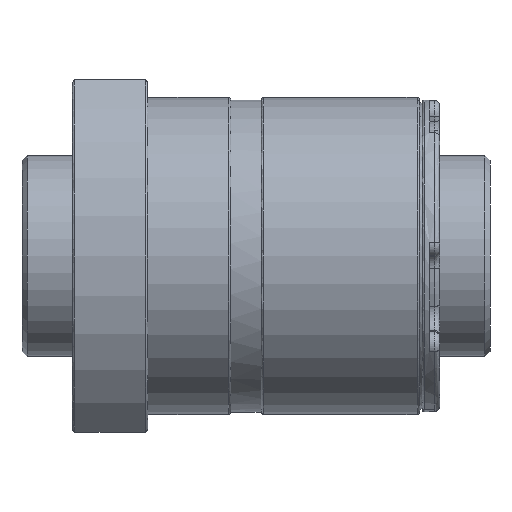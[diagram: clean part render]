
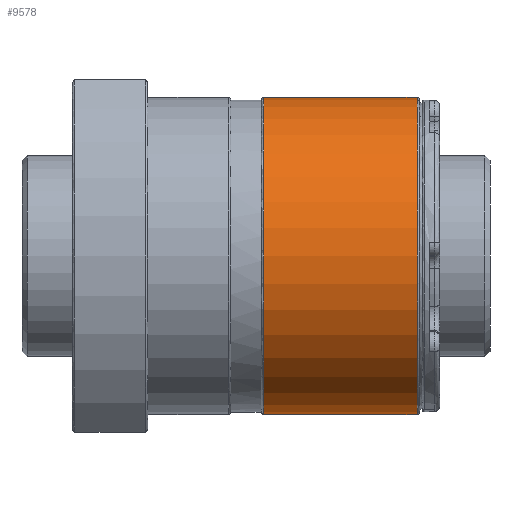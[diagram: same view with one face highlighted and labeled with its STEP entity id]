
A CAD part, front view. The second image highlights one B-rep face of the part: STEP entity #9578.
In plain terms, the highlighted cylindrical face has radius 31.5 mm (diameter 63 mm), a partial arc.
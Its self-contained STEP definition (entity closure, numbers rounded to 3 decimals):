
#218 = DIRECTION ( 'NONE',  ( 1., 0., 0. ) ) ;
#360 = CARTESIAN_POINT ( 'NONE',  ( 38., 0., 0. ) ) ;
#718 = VECTOR ( 'NONE', #1881, 1000. ) ;
#773 = AXIS2_PLACEMENT_3D ( 'NONE', #6990, #3356, #4596 ) ;
#1459 = EDGE_CURVE ( 'NONE', #13339, #4887, #11042, .T. ) ;
#1680 = VECTOR ( 'NONE', #7542, 1000. ) ;
#1881 = DIRECTION ( 'NONE',  ( -1., 0., 0. ) ) ;
#2068 = DIRECTION ( 'NONE',  ( -1., 0., 0. ) ) ;
#2121 = ORIENTED_EDGE ( 'NONE', *, *, #14696, .T. ) ;
#2180 = CARTESIAN_POINT ( 'NONE',  ( 69., 0., 0. ) ) ;
#2711 = ORIENTED_EDGE ( 'NONE', *, *, #11751, .T. ) ;
#3356 = DIRECTION ( 'NONE',  ( -1., 0., 0. ) ) ;
#3876 = AXIS2_PLACEMENT_3D ( 'NONE', #2180, #2068, #15459 ) ;
#4085 = CYLINDRICAL_SURFACE ( 'NONE', #3876, 31.5 ) ;
#4327 = VERTEX_POINT ( 'NONE', #9874 ) ;
#4484 = AXIS2_PLACEMENT_3D ( 'NONE', #360, #218, #10071 ) ;
#4596 = DIRECTION ( 'NONE',  ( 0., 0., 1. ) ) ;
#4600 = CIRCLE ( 'NONE', #4484, 31.5 ) ;
#4887 = VERTEX_POINT ( 'NONE', #7353 ) ;
#5930 = CARTESIAN_POINT ( 'NONE',  ( 68.5, 0., 31.5 ) ) ;
#6230 = CARTESIAN_POINT ( 'NONE',  ( 68.5, 0., -31.5 ) ) ;
#6389 = EDGE_LOOP ( 'NONE', ( #11703, #2711, #2121, #12033 ) ) ;
#6990 = CARTESIAN_POINT ( 'NONE',  ( 68.5, 0., 0. ) ) ;
#7343 = FACE_OUTER_BOUND ( 'NONE', #6389, .T. ) ;
#7353 = CARTESIAN_POINT ( 'NONE',  ( 38., 0., -31.5 ) ) ;
#7542 = DIRECTION ( 'NONE',  ( -1., 0., 0. ) ) ;
#9578 = ADVANCED_FACE ( 'NONE', ( #7343 ), #4085, .T. ) ;
#9874 = CARTESIAN_POINT ( 'NONE',  ( 38., 0., 31.5 ) ) ;
#10071 = DIRECTION ( 'NONE',  ( 0., 0., 1. ) ) ;
#10465 = LINE ( 'NONE', #15177, #718 ) ;
#11042 = LINE ( 'NONE', #14813, #1680 ) ;
#11703 = ORIENTED_EDGE ( 'NONE', *, *, #1459, .F. ) ;
#11751 = EDGE_CURVE ( 'NONE', #13339, #14869, #15441, .T. ) ;
#12033 = ORIENTED_EDGE ( 'NONE', *, *, #12498, .T. ) ;
#12498 = EDGE_CURVE ( 'NONE', #4327, #4887, #4600, .T. ) ;
#13339 = VERTEX_POINT ( 'NONE', #6230 ) ;
#14696 = EDGE_CURVE ( 'NONE', #14869, #4327, #10465, .T. ) ;
#14813 = CARTESIAN_POINT ( 'NONE',  ( 69., 0., -31.5 ) ) ;
#14869 = VERTEX_POINT ( 'NONE', #5930 ) ;
#15177 = CARTESIAN_POINT ( 'NONE',  ( 69., 0., 31.5 ) ) ;
#15441 = CIRCLE ( 'NONE', #773, 31.5 ) ;
#15459 = DIRECTION ( 'NONE',  ( 0., 0., 1. ) ) ;
